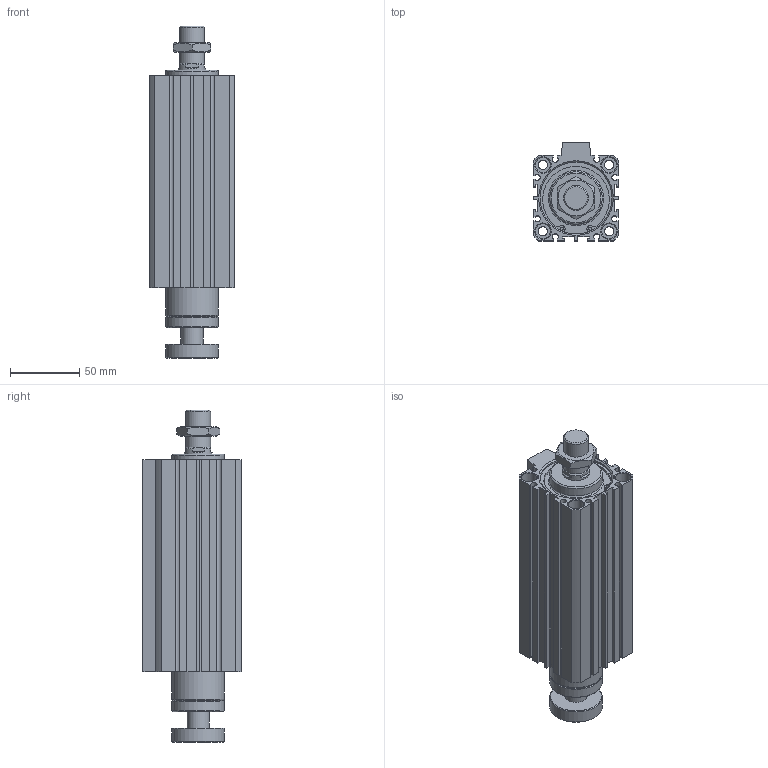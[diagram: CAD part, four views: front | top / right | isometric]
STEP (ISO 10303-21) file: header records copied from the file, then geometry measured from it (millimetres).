
FILE_DESCRIPTION((''),'2;1');
FILE_NAME('I:\3D電子目錄\氣缸\JDAR\JDAR-BS\JDAR50-BS\JDAR50x115-BS.stp','2007-05-05T14:21:15',('662F206'),(''),'Autodesk Inventor 11','Autodesk Inventor 11','');
FILE_SCHEMA(('AUTOMOTIVE_DESIGN { 1 0 10303 214 1 1 1 1 }'));
Length unit declared in the file: millimetre
Products named in the file (3): JDAR50-BS; R 形環 52
Assembly tree (3 placements, depth 2):
  JDAR50-BS
    JDAR50-BS
    R 形環 52  x2
Bounding box: 62 x 71 x 240.3 mm (x, y, z)
Volume: 592512 mm3; surface area: 99301.8 mm2
Topology: 3 solids, 3 shells, 204 faces, 493 edges, 321 vertices
Faces by surface type: plane 119, cylinder 56, cone 25, bspline 2, torus 2
Full cylindrical faces by diameter (mm): 2.3 x4, 2.7 x2, 6.8 x4, 11 x8, 16 x1, 18 x2, 20 x1, 38 x4, 52 x4, 55 x2
Entity records: 5422 total; most frequent: CARTESIAN_POINT 1023, DIRECTION 907, ORIENTED_EDGE 804, EDGE_CURVE 402, AXIS2_PLACEMENT_3D 329, VERTEX_POINT 295, EDGE_LOOP 285, VECTOR 249
